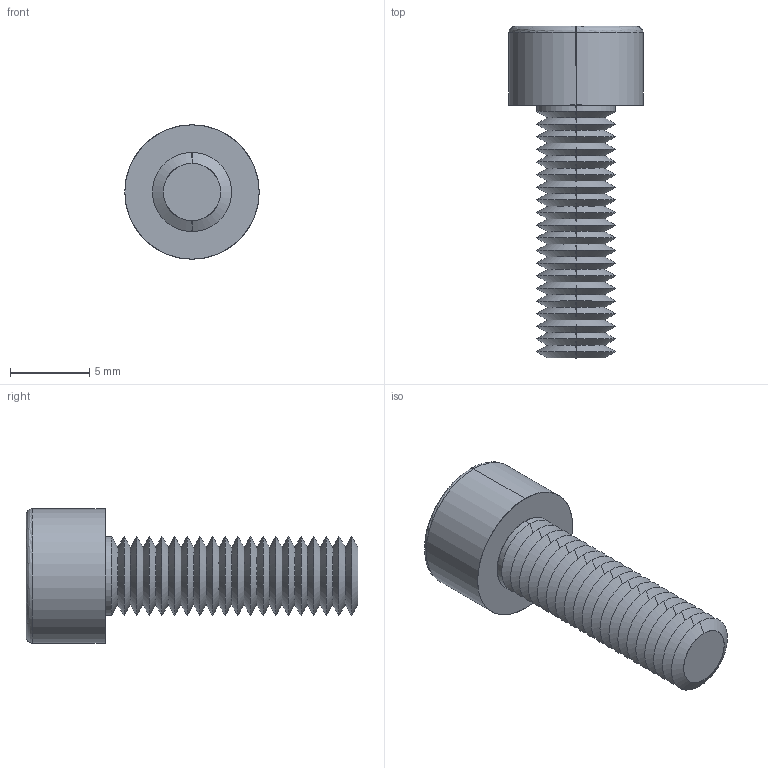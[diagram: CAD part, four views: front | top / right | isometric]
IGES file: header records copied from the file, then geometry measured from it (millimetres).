
Start section: SolidWorks IGES file using analytic representation for surfaces
Global section: file name: C:\Users\ianosborn\Desktop\N0007.91N_v2\N0007.91N_v2_20250519_IGES\91N.050.0160.igs; native system: SolidWorks 2019; preprocessor: SolidWorks 2019; author: IanOsborn; date: 250520.095150; units: millimetre
Bounding box: 8.5 x 21 x 8.5 mm (x, y, z)
Surface area: 718.2 mm2 (no closed solid volume)
Topology: 0 solids, 0 shells, 108 faces, 629 edges, 627 vertices
Faces by surface type: revolution 91, bspline 17
